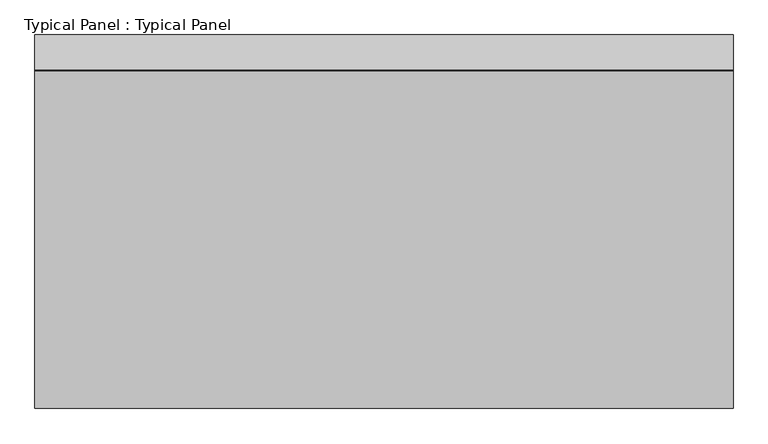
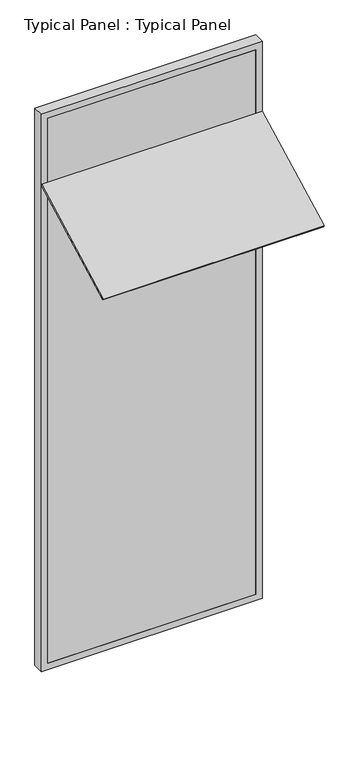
"""IFC4 building model written with IfcOpenShell, lengths in millimetres: plate geometry, Typical Panel : Typical Panel."""

from ifc_helpers import new_model, si_unit, frame, origin, place, context, project, spatial, polyline, outline, extrude, source, transform, mapped, element, save


def typical_panel_typical_panel_48698c2b(model_context):
    return source(origin(), model_context, "Body", "SweptSolid", [
        extrude(outline(polyline([(0.0, -820.0), (0.0, 0.0), (1500.0, 0.0), (1500.0, -820.0), (0.0, -820.0)])), frame((750.0, -724.3223105, 3106.2038426), z_axis=(0.0, -0.4694715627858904, 0.8829475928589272), x_axis=(-1.0, 0.0, 0.0)), (0.0, 0.0, 1.0), 10.0),
        extrude(outline(polyline([(0.0, -750.0), (0.0, 750.0), (4000.0, 750.0), (4000.0, -750.0), (0.0, -750.0)]), holes=[polyline([(45.0, 705.0), (45.0, -705.0), (3955.0, -705.0), (3955.0, 705.0), (45.0, 705.0)])]), frame((0.0, -1.5797986, 0.0), z_axis=(0.0, 1.0, 0.0), x_axis=(0.0, 0.0, 1.0)), (0.0, 0.0, 1.0), 75.0),
        extrude(outline(polyline([(705.0, -1.5797986), (-705.0, -1.5797986), (-705.0, 13.4202014), (705.0, 13.4202014), (705.0, -1.5797986)])), frame((0.0, 0.0, 45.0), z_axis=(0.0, 0.0, 1.0), x_axis=(1.0, 0.0, 0.0)), (0.0, 0.0, 1.0), 3910.0),
    ])


if __name__ == "__main__":
    model = new_model("IFC4")
    model_context = context("Model", 3, world=origin())
    ifc_project = project(units=[si_unit("LENGTHUNIT", "METRE", prefix="MILLI")], contexts=[model_context])
    site = spatial("IfcSite", under=ifc_project)
    building = spatial("IfcBuilding", under=site)
    placement = place(None, origin())
    typical_panel_typical_panel_shape = typical_panel_typical_panel_48698c2b(model_context)
    element("IfcPlate", 1, ObjectType="Typical Panel : Typical Panel", at=placement, inside=building, context=model_context, shape_type="MappedRepresentation", body=[
        mapped(typical_panel_typical_panel_shape, transform((0.0, 0.0, 0.0), x_axis=(1.0, 0.0, 0.0), y_axis=(0.0, 1.0, 0.0), z_axis=(0.0, 0.0, 1.0))),
    ])
    save(model, "model.ifc")
